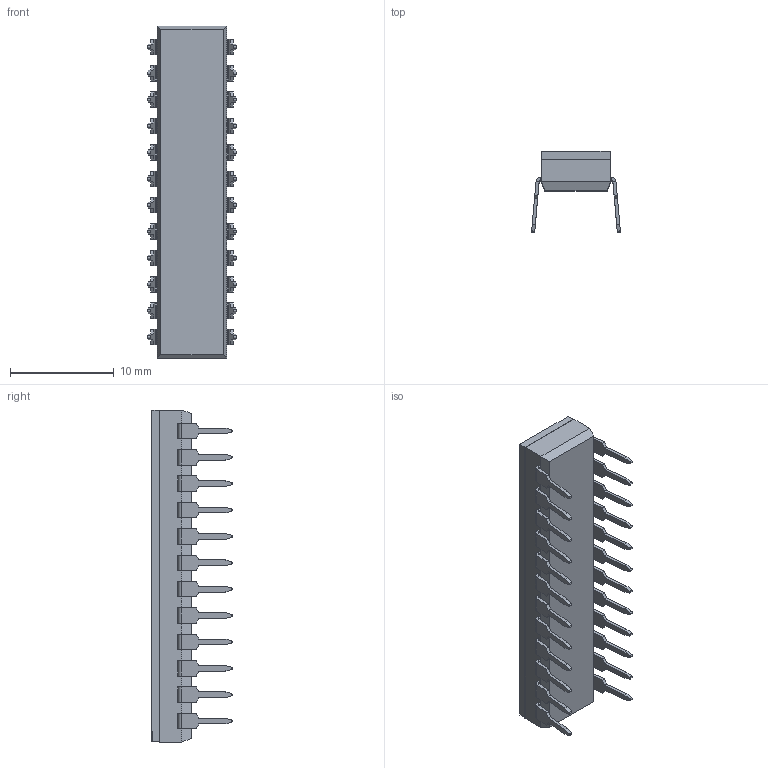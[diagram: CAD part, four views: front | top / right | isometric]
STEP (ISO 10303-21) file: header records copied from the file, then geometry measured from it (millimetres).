
FILE_DESCRIPTION (( 'STEP AP203' ), '1' );
FILE_NAME ('209-12LPS.STEP', '2019-05-24T07:24:30', ( '' ), ( '' ), 'SwSTEP 2.0', 'SolidWorks 2019', '' );
FILE_SCHEMA (( 'CONFIG_CONTROL_DESIGN' ));
Length unit declared in the file: millimetre
Products named in the file (5): 209-12LPS; 209-02-212 mold housing for 209; 209-40-212 for 209; 219-56-001; 209-83-001-06-01 lead frame
Assembly tree (26 placements, depth 2):
  209-12LPS
    209-02-212 mold housing for 209
    209-40-212 for 209
    219-56-001  x12
    209-83-001-06-01 lead frame  x12
Bounding box: 8.55 x 7.76 x 31.96 mm (x, y, z)
Volume: 688.7 mm3; surface area: 2251.2 mm2
Topology: 38 solids, 38 shells, 1637 faces, 4196 edges, 2652 vertices
Faces by surface type: plane 1050, bspline 275, cylinder 264, sphere 48
Entity records: 35687 total; most frequent: CARTESIAN_POINT 19328, ORIENTED_EDGE 3632, DIRECTION 2178, EDGE_CURVE 1816, VECTOR 1222, LINE 1222, VERTEX_POINT 1200, EDGE_LOOP 762
